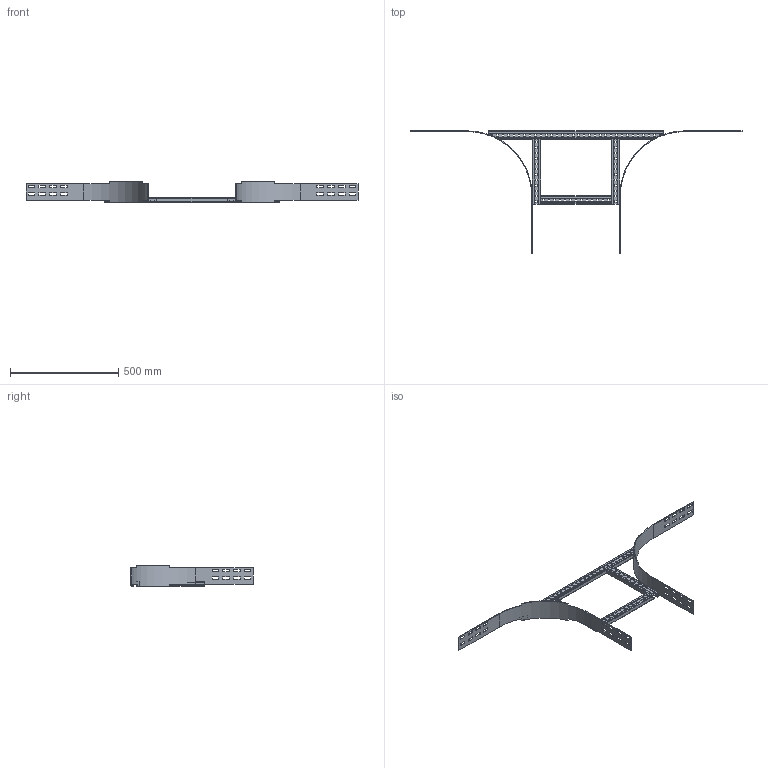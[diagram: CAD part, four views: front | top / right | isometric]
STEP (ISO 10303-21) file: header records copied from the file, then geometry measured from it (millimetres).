
FILE_DESCRIPTION(('Creo Elements/Direct Modeling STEP Export'),'2;1');
FILE_NAME('//pserver/office/EK/ME10-3D/3D-output/WPBP10-40-30.stp','2020-03-13T 7:20:34',(''),(''),'PTC Creo Elements/Direct Modeling STEP processor for AP214 (Solid Model)','PTC Creo Elements/Direct Modeling 19.0C 15-Aug-2015 (C) Parametric Technology GmbH','');
FILE_SCHEMA(('AUTOMOTIVE_DESIGN { 1 0 10303 214 1 1 1 1 }'));
Length unit declared in the file: millimetre
Products named in the file (5): WPAASP1_400-300; WPAASP2-300; WPAAIG_100-300; WPKS40; WPBP10-40-30-HDG
Assembly tree (6 placements, depth 2):
  WPBP10-40-30-HDG
    WPKS40
    WPAASP2-300  x2
    WPAAIG_100-300  x2
    WPAASP1_400-300
Bounding box: 1535 x 565 x 95 mm (x, y, z)
Volume: 694601.2 mm3; surface area: 662528.1 mm2
Topology: 6 solids, 6 shells, 612 faces, 1794 edges, 1196 vertices
Faces by surface type: plane 400, cylinder 212
Entity records: 14925 total; most frequent: CARTESIAN_POINT 2568, ORIENTED_EDGE 2568, DIRECTION 2492, EDGE_CURVE 1284, VECTOR 932, LINE 932, VERTEX_POINT 856, AXIS2_PLACEMENT_3D 780
